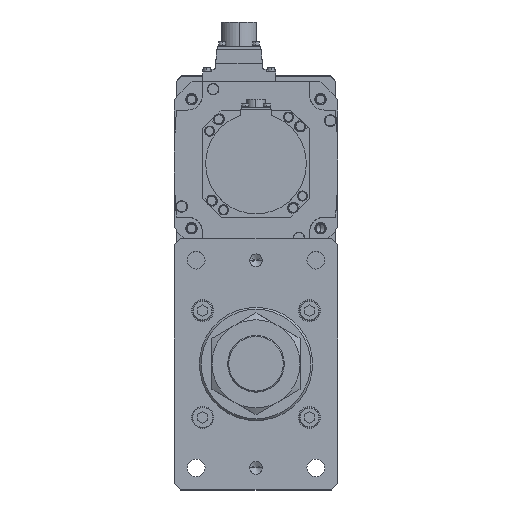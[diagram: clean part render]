
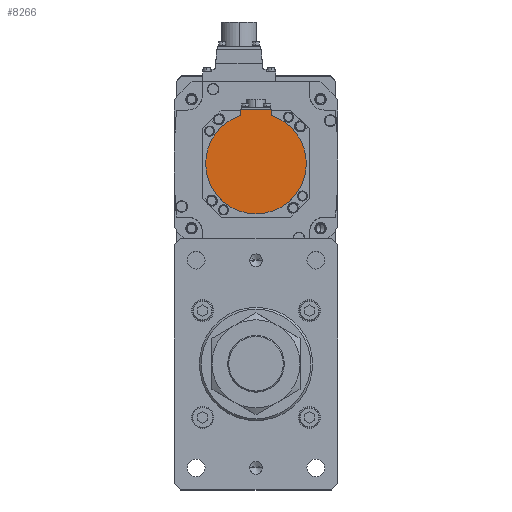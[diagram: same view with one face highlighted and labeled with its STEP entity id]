
A CAD part, top view. The second image highlights one B-rep face of the part: STEP entity #8266.
In plain terms, the highlighted planar face has unit normal (0, 0, 1) as drawn and (0, 0, -1) by its records, which use the part's own axes.
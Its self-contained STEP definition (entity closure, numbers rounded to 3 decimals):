
#1557 = CARTESIAN_POINT ( 'NONE',  ( 0., 0., -146.5 ) ) ;
#1886 = CARTESIAN_POINT ( 'NONE',  ( 12., -38.158, -146.5 ) ) ;
#1946 = VECTOR ( 'NONE', #27068, 1000. ) ;
#2508 = ORIENTED_EDGE ( 'NONE', *, *, #32486, .F. ) ;
#3012 = CARTESIAN_POINT ( 'NONE',  ( 0., -42.5, -146.5 ) ) ;
#3104 = CARTESIAN_POINT ( 'NONE',  ( -40., 0., -146.5 ) ) ;
#4528 = CARTESIAN_POINT ( 'NONE',  ( -12., -42.5, -146.5 ) ) ;
#4776 = VERTEX_POINT ( 'NONE', #24993 ) ;
#4788 = DIRECTION ( 'NONE',  ( 0., 1., 0. ) ) ;
#4917 = DIRECTION ( 'NONE',  ( 0., 0., 1. ) ) ;
#5807 = VERTEX_POINT ( 'NONE', #3104 ) ;
#5986 = ORIENTED_EDGE ( 'NONE', *, *, #17523, .F. ) ;
#7419 = LINE ( 'NONE', #3012, #1946 ) ;
#7656 = CARTESIAN_POINT ( 'NONE',  ( 12., -42.5, -146.5 ) ) ;
#7666 = ORIENTED_EDGE ( 'NONE', *, *, #11466, .F. ) ;
#7834 = AXIS2_PLACEMENT_3D ( 'NONE', #21347, #15527, #15640 ) ;
#8266 = ADVANCED_FACE ( 'NONE', ( #25350 ), #27638, .F. ) ;
#8500 = VERTEX_POINT ( 'NONE', #7656 ) ;
#8544 = AXIS2_PLACEMENT_3D ( 'NONE', #1557, #9647, #15010 ) ;
#9647 = DIRECTION ( 'NONE',  ( 0., 0., 1. ) ) ;
#11466 = EDGE_CURVE ( 'NONE', #30623, #4776, #32850, .T. ) ;
#11750 = DIRECTION ( 'NONE',  ( 0., 1., 0. ) ) ;
#12014 = DIRECTION ( 'NONE',  ( 1., 0., 0. ) ) ;
#12239 = ORIENTED_EDGE ( 'NONE', *, *, #26588, .F. ) ;
#13035 = CIRCLE ( 'NONE', #8544, 40. ) ;
#14914 = ORIENTED_EDGE ( 'NONE', *, *, #20456, .T. ) ;
#15010 = DIRECTION ( 'NONE',  ( 1., 0., 0. ) ) ;
#15527 = DIRECTION ( 'NONE',  ( 0., 0., 1. ) ) ;
#15640 = DIRECTION ( 'NONE',  ( 1., 0., 0. ) ) ;
#15943 = AXIS2_PLACEMENT_3D ( 'NONE', #18471, #4917, #23958 ) ;
#16731 = LINE ( 'NONE', #33872, #33453 ) ;
#16942 = AXIS2_PLACEMENT_3D ( 'NONE', #25300, #30455, #12014 ) ;
#17121 = CIRCLE ( 'NONE', #7834, 40. ) ;
#17523 = EDGE_CURVE ( 'NONE', #4776, #5807, #13035, .T. ) ;
#18471 = CARTESIAN_POINT ( 'NONE',  ( 0., 0., -146.5 ) ) ;
#20456 = EDGE_CURVE ( 'NONE', #8500, #26268, #7419, .T. ) ;
#21347 = CARTESIAN_POINT ( 'NONE',  ( 0., 0., -146.5 ) ) ;
#23958 = DIRECTION ( 'NONE',  ( 1., 0., 0. ) ) ;
#24993 = CARTESIAN_POINT ( 'NONE',  ( 40., 0., -146.5 ) ) ;
#25300 = CARTESIAN_POINT ( 'NONE',  ( 0., -1.249, -146.5 ) ) ;
#25350 = FACE_OUTER_BOUND ( 'NONE', #33251, .T. ) ;
#26241 = ORIENTED_EDGE ( 'NONE', *, *, #32278, .T. ) ;
#26268 = VERTEX_POINT ( 'NONE', #4528 ) ;
#26588 = EDGE_CURVE ( 'NONE', #8500, #30623, #28312, .T. ) ;
#26896 = CARTESIAN_POINT ( 'NONE',  ( -12., -38.158, -146.5 ) ) ;
#27068 = DIRECTION ( 'NONE',  ( -1., 0., 0. ) ) ;
#27638 = PLANE ( 'NONE',  #16942 ) ;
#27731 = CARTESIAN_POINT ( 'NONE',  ( 12., -1.249, -146.5 ) ) ;
#28312 = LINE ( 'NONE', #27731, #33330 ) ;
#28603 = VERTEX_POINT ( 'NONE', #26896 ) ;
#30455 = DIRECTION ( 'NONE',  ( 0., 0., 1. ) ) ;
#30623 = VERTEX_POINT ( 'NONE', #1886 ) ;
#32278 = EDGE_CURVE ( 'NONE', #26268, #28603, #16731, .T. ) ;
#32486 = EDGE_CURVE ( 'NONE', #5807, #28603, #17121, .T. ) ;
#32850 = CIRCLE ( 'NONE', #15943, 40. ) ;
#33251 = EDGE_LOOP ( 'NONE', ( #26241, #2508, #5986, #7666, #12239, #14914 ) ) ;
#33330 = VECTOR ( 'NONE', #11750, 1000. ) ;
#33453 = VECTOR ( 'NONE', #4788, 1000. ) ;
#33872 = CARTESIAN_POINT ( 'NONE',  ( -12., -40.329, -146.5 ) ) ;
